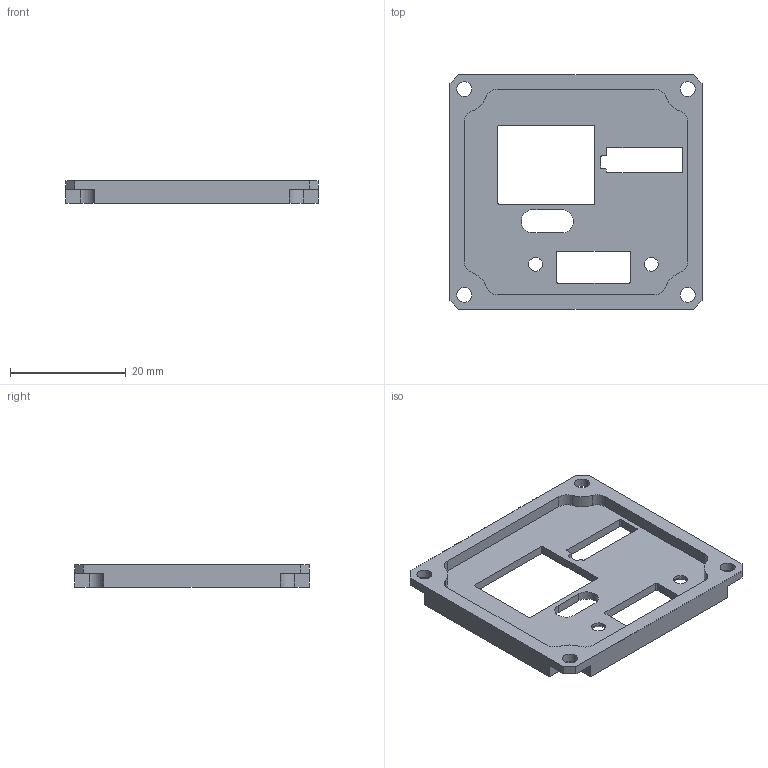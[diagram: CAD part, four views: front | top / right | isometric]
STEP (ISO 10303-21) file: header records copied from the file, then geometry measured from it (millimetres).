
FILE_DESCRIPTION(/* description */ ('VariCAD 2008 1.04 AP-203'),/* implementation_level */ '2;1');
FILE_NAME(/* name */ '0353-13-02',/* time_stamp */ '2008-06-01T22:43:44-06:00',/* author */ (''),/* organization */ (''),/* preprocessor_version */ 'ST-DEVELOPER v10',/* originating_system */ 'VariCAD 2008 1.04; kernel version (20071230)',/* authorisation */ '');
FILE_SCHEMA (('CONFIG_CONTROL_DESIGN'));
Length unit declared in the file: millimetre
Products named in the file (1): Part
Bounding box: 43.5 x 40.5 x 3.9 mm (x, y, z)
Volume: 2831.9 mm3; surface area: 3943 mm2
Topology: 1 solids, 1 shells, 111 faces, 321 edges, 214 vertices
Faces by surface type: cylinder 57, plane 50, cone 4
Entity records: 3783 total; most frequent: DIRECTION 669, CARTESIAN_POINT 648, ORIENTED_EDGE 642, EDGE_CURVE 321, AXIS2_PLACEMENT_3D 235, VERTEX_POINT 214, LINE 199, VECTOR 199
